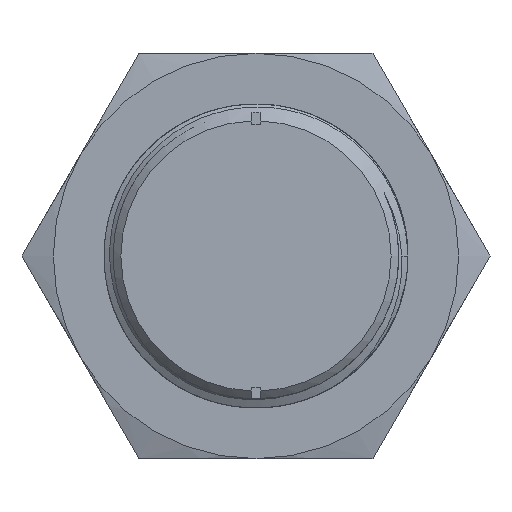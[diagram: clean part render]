
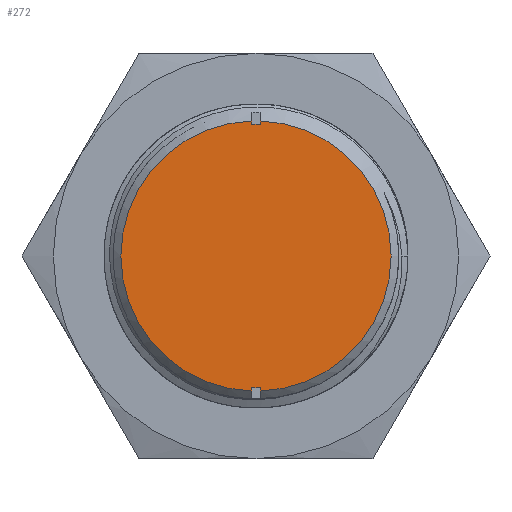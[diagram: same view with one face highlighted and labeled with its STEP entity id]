
A CAD part, front view. The second image highlights one B-rep face of the part: STEP entity #272.
In plain terms, the highlighted planar face has unit normal (0, -1, 0).
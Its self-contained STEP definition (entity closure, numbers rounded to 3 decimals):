
#92=FACE_OUTER_BOUND('',#377,.T.);
#146=LINE('',#4748,#196);
#150=LINE('',#4755,#200);
#154=LINE('',#4764,#204);
#157=LINE('',#4772,#207);
#161=LINE('',#4784,#211);
#165=LINE('',#4861,#215);
#196=VECTOR('',#996,1.);
#200=VECTOR('',#1002,1.);
#204=VECTOR('',#1008,1.);
#207=VECTOR('',#1017,1.);
#211=VECTOR('',#1029,1.);
#215=VECTOR('',#1043,1.);
#272=ADVANCED_FACE('',(#92),#320,.T.);
#320=PLANE('',#905);
#377=EDGE_LOOP('',(#494,#495,#496,#497,#498,#499,#500,#501,#502));
#494=ORIENTED_EDGE('',*,*,#772,.T.);
#495=ORIENTED_EDGE('',*,*,#740,.F.);
#496=ORIENTED_EDGE('',*,*,#739,.F.);
#497=ORIENTED_EDGE('',*,*,#746,.T.);
#498=ORIENTED_EDGE('',*,*,#750,.T.);
#499=ORIENTED_EDGE('',*,*,#764,.T.);
#500=ORIENTED_EDGE('',*,*,#763,.F.);
#501=ORIENTED_EDGE('',*,*,#758,.T.);
#502=ORIENTED_EDGE('',*,*,#754,.T.);
#662=VERTEX_POINT('',#4732);
#663=VERTEX_POINT('',#4734);
#664=VERTEX_POINT('',#4736);
#669=VERTEX_POINT('',#4747);
#671=VERTEX_POINT('',#4754);
#672=VERTEX_POINT('',#4758);
#675=VERTEX_POINT('',#4763);
#678=VERTEX_POINT('',#4773);
#680=VERTEX_POINT('',#4779);
#739=EDGE_CURVE('',#662,#663,#848,.T.);
#740=EDGE_CURVE('',#663,#664,#849,.T.);
#746=EDGE_CURVE('',#662,#669,#146,.T.);
#750=EDGE_CURVE('',#669,#671,#150,.T.);
#754=EDGE_CURVE('',#672,#675,#154,.T.);
#758=EDGE_CURVE('',#678,#672,#157,.T.);
#763=EDGE_CURVE('',#678,#680,#854,.T.);
#764=EDGE_CURVE('',#671,#680,#161,.T.);
#772=EDGE_CURVE('',#675,#664,#165,.T.);
#848=CIRCLE('',#885,8.);
#849=CIRCLE('',#886,8.);
#854=CIRCLE('',#897,8.);
#885=AXIS2_PLACEMENT_3D('',#4733,#983,#984);
#886=AXIS2_PLACEMENT_3D('',#4735,#985,#986);
#897=AXIS2_PLACEMENT_3D('',#4782,#1025,#1026);
#905=AXIS2_PLACEMENT_3D('',#4863,#1046,#1047);
#983=DIRECTION('',(0.,1.,0.));
#984=DIRECTION('',(0.031,0.,1.));
#985=DIRECTION('',(0.,1.,0.));
#986=DIRECTION('',(1.,0.,0.));
#996=DIRECTION('',(0.,0.,-1.));
#1002=DIRECTION('',(-1.,0.,0.));
#1008=DIRECTION('',(1.,0.,0.));
#1017=DIRECTION('',(0.,0.,1.));
#1025=DIRECTION('',(0.,1.,0.));
#1026=DIRECTION('',(-0.031,0.,-1.));
#1029=DIRECTION('',(0.,0.,1.));
#1043=DIRECTION('',(0.,0.,-1.));
#1046=DIRECTION('',(0.,-1.,0.));
#1047=DIRECTION('',(0.,0.,1.));
#4732=CARTESIAN_POINT('',(0.25,0.,7.996));
#4733=CARTESIAN_POINT('',(0.,0.,0.));
#4734=CARTESIAN_POINT('',(8.,0.,0.));
#4735=CARTESIAN_POINT('',(0.,0.,
0.));
#4736=CARTESIAN_POINT('',(0.25,0.,-7.996));
#4747=CARTESIAN_POINT('',(0.25,0.,7.8));
#4748=CARTESIAN_POINT('',(0.25,0.,7.996));
#4754=CARTESIAN_POINT('',(-0.25,0.,7.8));
#4755=CARTESIAN_POINT('',(0.25,0.,7.8));
#4758=CARTESIAN_POINT('',(-0.25,0.,-7.8));
#4763=CARTESIAN_POINT('',(0.25,0.,-7.8));
#4764=CARTESIAN_POINT('',(-0.25,0.,-7.8));
#4772=CARTESIAN_POINT('',(-0.25,0.,-7.996));
#4773=CARTESIAN_POINT('',(-0.25,0.,-7.996));
#4779=CARTESIAN_POINT('',(-0.25,0.,7.996));
#4782=CARTESIAN_POINT('',(0.,0.,0.));
#4784=CARTESIAN_POINT('',(-0.25,0.,7.8));
#4861=CARTESIAN_POINT('',(0.25,0.,-7.8));
#4863=CARTESIAN_POINT('',(8.8,0.,-8.8));
